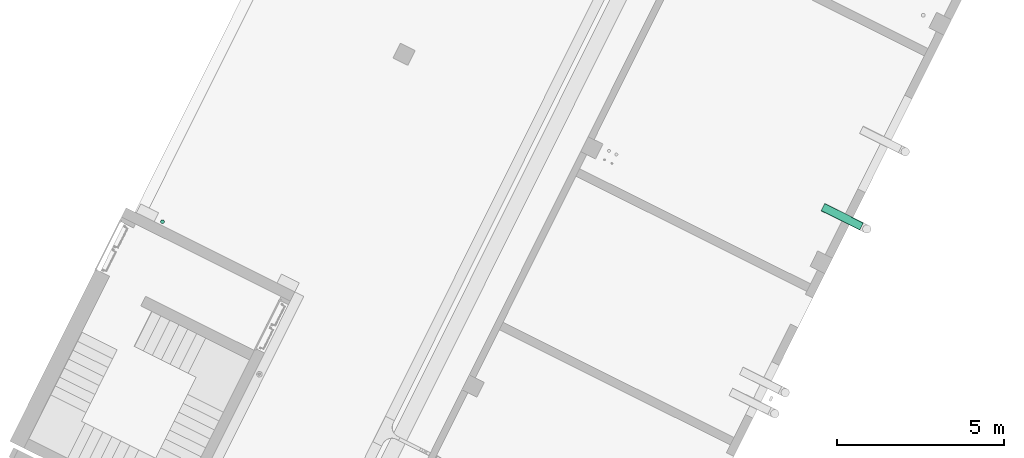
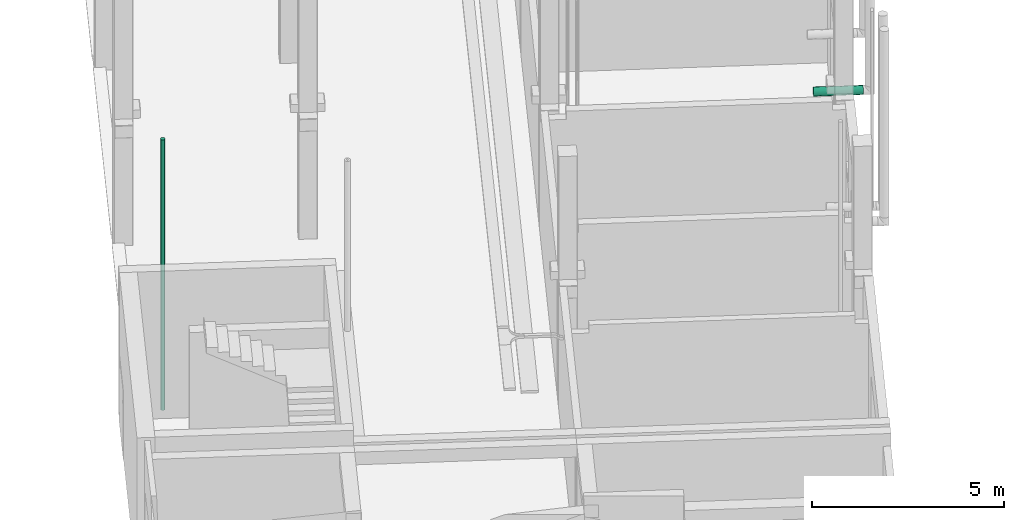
# One storey, part 59 of 91: 2 flow segments.
"""IFC2X3 building model written with IfcOpenShell, lengths in metres."""

from ifc_helpers import new_model, entity, si_unit, converted_unit, derived_unit, direction, frame, origin, origin_2d_with_axis, place, context, subcontext, project, spatial, circle, extrude, type_object, element, save


model = new_model("IFC2X3")

# Units and contexts
model_context = context("Model", 3, precision=1e-05, world=origin(), true_north=direction((0.894925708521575, 0.446215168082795)))
context_of_model = context(None, 3, precision=1e-05, world=origin(), true_north=direction((0.894925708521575, 0.446215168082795)))
body_context = subcontext(model_context, "Body", "Model", "MODEL_VIEW")
ifc_project = project(units=[si_unit("LENGTHUNIT", "METRE"), si_unit("AREAUNIT", "SQUARE_METRE"), si_unit("VOLUMEUNIT", "CUBIC_METRE"), converted_unit("PLANEANGLEUNIT", "DEGREE", entity("IfcRatioMeasure", 0.0174532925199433), si_unit("PLANEANGLEUNIT", "RADIAN"), dimensions=[0, 0, 0, 0, 0, 0, 0]), si_unit("MASSUNIT", "GRAM", prefix="KILO"), si_unit("TIMEUNIT", "SECOND"), si_unit("FREQUENCYUNIT", "HERTZ"), si_unit("THERMODYNAMICTEMPERATUREUNIT", "DEGREE_CELSIUS"), derived_unit("THERMALTRANSMITTANCEUNIT", [(si_unit("MASSUNIT", "GRAM", prefix="KILO"), 1), (si_unit("THERMODYNAMICTEMPERATUREUNIT", "KELVIN"), -1), (si_unit("TIMEUNIT", "SECOND"), -3)]), derived_unit("VOLUMETRICFLOWRATEUNIT", [(si_unit("LENGTHUNIT", "METRE"), 3), (si_unit("TIMEUNIT", "SECOND"), -1)]), si_unit("ELECTRICCURRENTUNIT", "AMPERE"), si_unit("ELECTRICVOLTAGEUNIT", "VOLT"), si_unit("POWERUNIT", "WATT"), si_unit("FORCEUNIT", "NEWTON", prefix="KILO"), si_unit("ILLUMINANCEUNIT", "LUX"), si_unit("LUMINOUSFLUXUNIT", "LUMEN"), si_unit("LUMINOUSINTENSITYUNIT", "CANDELA"), si_unit("PRESSUREUNIT", "PASCAL")], contexts=[model_context, context_of_model])

# Site, building, storey
site_placement = place(None, frame((218.228324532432, 584.720189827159, 0.0), z_axis=(0.0, 0.0, 1.0), x_axis=(0.446215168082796, 0.894925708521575, 0.0)))
site = spatial("IfcSite", under=ifc_project, at=site_placement, Name="Default", CompositionType="ELEMENT")
building_placement = place(site_placement, origin())
building = spatial("IfcBuilding", under=site, at=building_placement, CompositionType="ELEMENT")
storey_placement = place(building_placement, origin())
storey = spatial("IfcBuildingStorey", under=building, at=storey_placement, Name="0 - Piano Terra", CompositionType="ELEMENT", Elevation=0.0)

# Flow segments
duct_segment_type = type_object("IfcDuctSegmentType", Name="Condotto circolare:Canna fumaria", PredefinedType="NOTDEFINED")
flow_segment_1_placement = place(storey_placement, frame((-43.4754288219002, -13.553324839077, 2.77340472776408)))
element("IfcFlowSegment", 1, at=flow_segment_1_placement, inside=storey, type_object=duct_segment_type, Name="Condotto circolare:Canna fumaria", ObjectType="Condotto circolare:Canna fumaria", context=body_context, shape_type="SweptSolid", body=[
    extrude(circle(Radius=0.125, at=origin_2d_with_axis()), frame((0.126595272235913, 0.0, 0.126595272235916), z_axis=(0.0, 1.0, 0.0), x_axis=(1.0, 0.0, 0.0)), (0.0, 0.0, 1.0), 1.30000000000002),
])
pipe_segment_type = type_object("IfcPipeSegmentType", Name="Tubazione:Pluviale-Tubazione", PredefinedType="NOTDEFINED")
flow_segment_2_placement = place(storey_placement, frame((-52.6456945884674, 5.24017573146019, 0.0)))
element("IfcFlowSegment", 2, at=flow_segment_2_placement, inside=storey, type_object=pipe_segment_type, Name="Tubazione:Pluviale-Tubazione", ObjectType="Tubazione:Pluviale-Tubazione", context=body_context, shape_type="SweptSolid", body=[
    extrude(circle(Radius=0.05715, at=origin_2d_with_axis()), frame((0.0587452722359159, 0.0587452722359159, 0.0)), (0.0, 0.0, 1.0), 8.61),
])

save(model, "model.ifc")
